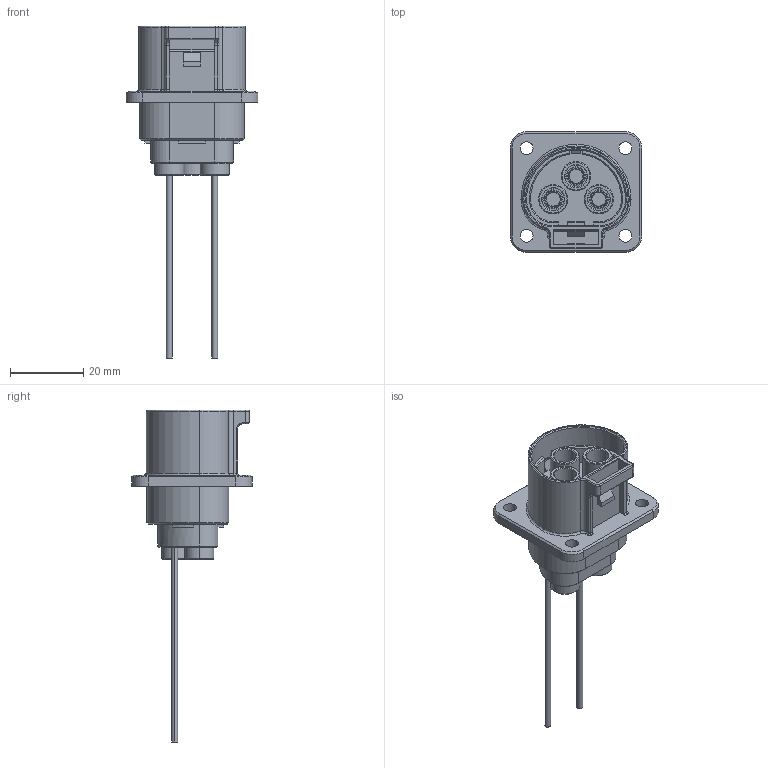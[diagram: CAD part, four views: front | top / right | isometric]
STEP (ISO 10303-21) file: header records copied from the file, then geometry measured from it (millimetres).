
FILE_DESCRIPTION (( 'STEP AP214' ), '1' );
FILE_NAME ('PL083X-41.STEP', '2024-03-22T03:44:22', ( '' ), ( '' ), 'SwSTEP 2.0', 'SolidWorks 2018', '' );
FILE_SCHEMA (( 'AUTOMOTIVE_DESIGN' ));
Length unit declared in the file: millimetre
Products named in the file (1): PL083X-41
Bounding box: 36 x 33 x 90.8 mm (x, y, z)
Volume: 16222.1 mm3; surface area: 10709.2 mm2
Topology: 1 solids, 6 shells, 737 faces, 2059 edges, 1338 vertices
Faces by surface type: cylinder 314, plane 261, bspline 109, cone 53
Entity records: 31800 total; most frequent: CARTESIAN_POINT 9485, ORIENTED_EDGE 4118, DIRECTION 3423, EDGE_CURVE 2059, VERTEX_POINT 1338, AXIS2_PLACEMENT_3D 1241, LINE 941, VECTOR 941
